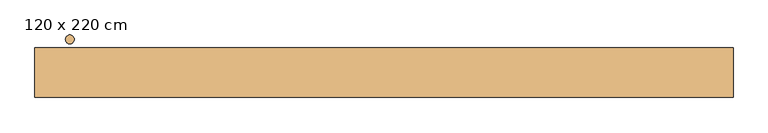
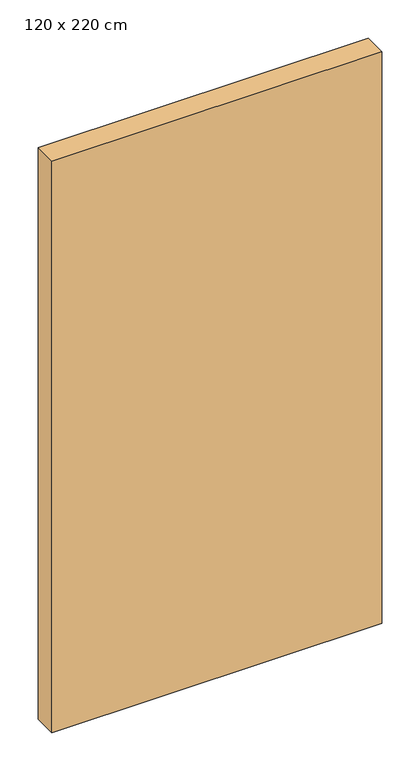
"""IFC4 building model written with IfcOpenShell, lengths in millimetres: door geometry, PUERTA ACCESO_PIVOT : 120 x 220 cm."""

from ifc_helpers import new_model, si_unit, point, frame, frame_2d, origin, origin_with_axes, place, context, project, spatial, polyline, circle_curve, trimmed, segment, composite_curve, outline, extrude, source, transform, mapped, element, save


def door_120_x_220_cm_c73bc2d5(model_context):
    return source(origin(), model_context, "Body", "SweptSolid", [
        extrude(outline(polyline([(-183.1334164, 105.0), (1016.8665836, 105.0), (1016.8665836, 20.0), (-183.1334164, 20.0), (-183.1334164, 105.0)])), origin_with_axes(), (0.0, 0.0, 1.0), 2200.0),
        extrude(outline(composite_curve([segment(trimmed(circle_curve(frame_2d((-123.1334164, 60.0)), 7.5172322), [point((-130.6506486, 60.0))], [point((-115.6161842, 60.0))], False, "CARTESIAN"), True, "CONTINUOUS"), segment(trimmed(circle_curve(frame_2d((-123.1334164, 60.0)), 7.5172322), [point((-115.6161842, 60.0))], [point((-130.6506486, 60.0))], False, "CARTESIAN"), True, "CONTINUOUS")], self_intersect=False)), frame((0.0, 0.0, 700.0), z_axis=(0.0, 0.0, 1.0), x_axis=(1.0, 0.0, 0.0)), (0.0, 0.0, 1.0), 650.0),
        extrude(outline(composite_curve([segment(trimmed(circle_curve(frame_2d((-123.1334164, 120.0)), 7.5172322), [point((-130.6506486, 120.0))], [point((-115.6161842, 120.0))], False, "CARTESIAN"), True, "CONTINUOUS"), segment(trimmed(circle_curve(frame_2d((-123.1334164, 120.0)), 7.5172322), [point((-115.6161842, 120.0))], [point((-130.6506486, 120.0))], False, "CARTESIAN"), True, "CONTINUOUS")], self_intersect=False)), frame((0.0, 0.0, 700.0), z_axis=(0.0, 0.0, 1.0), x_axis=(1.0, 0.0, 0.0)), (0.0, 0.0, 1.0), 650.0),
    ])


if __name__ == "__main__":
    model = new_model("IFC4")
    model_context = context("Model", 3, world=origin())
    ifc_project = project(units=[si_unit("LENGTHUNIT", "METRE", prefix="MILLI")], contexts=[model_context])
    site = spatial("IfcSite", under=ifc_project)
    building = spatial("IfcBuilding", under=site)
    placement = place(None, origin())
    door_120_x_220_cm_shape = door_120_x_220_cm_c73bc2d5(model_context)
    element("IfcDoor", 1, ObjectType="PUERTA ACCESO_PIVOT : 120 x 220 cm", at=placement, inside=building, context=model_context, shape_type="MappedRepresentation", body=[
        mapped(door_120_x_220_cm_shape, transform((0.0, 0.0, 0.0), x_axis=(1.0, 0.0, 0.0), y_axis=(0.0, 1.0, 0.0), z_axis=(0.0, 0.0, 1.0))),
    ])
    save(model, "model.ifc")
